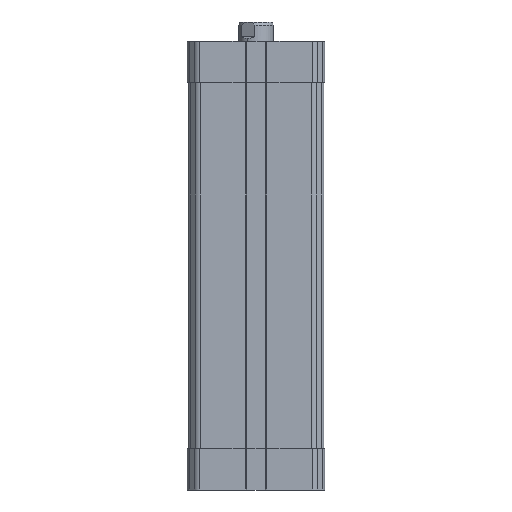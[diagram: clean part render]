
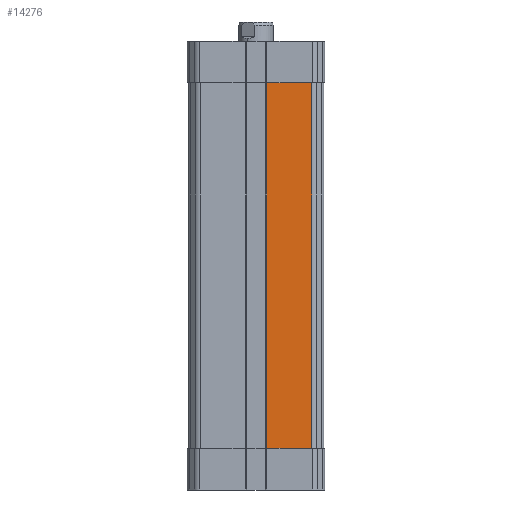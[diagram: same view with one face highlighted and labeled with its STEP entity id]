
A CAD part, front view. The second image highlights one B-rep face of the part: STEP entity #14276.
In plain terms, the highlighted planar face has unit normal (0, -1, 0).
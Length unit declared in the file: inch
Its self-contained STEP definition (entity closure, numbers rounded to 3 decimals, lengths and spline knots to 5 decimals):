
#11 = LINE ( 'NONE', #21614, #5166 ) ;
#841 = DIRECTION ( 'NONE',  ( 0., 0., -1. ) ) ;
#2750 = CARTESIAN_POINT ( 'NONE',  ( -0.76772, -0.76772, -3.0315 ) ) ;
#3472 = LINE ( 'NONE', #5408, #21790 ) ;
#4533 = FACE_OUTER_BOUND ( 'NONE', #9070, .T. ) ;
#4668 = CARTESIAN_POINT ( 'NONE',  ( -0.76772, -0.76772, -3.0315 ) ) ;
#5166 = VECTOR ( 'NONE', #12725, 39.37008 ) ;
#5408 = CARTESIAN_POINT ( 'NONE',  ( 0.63337, -0.76772, 1.10236 ) ) ;
#5555 = CARTESIAN_POINT ( 'NONE',  ( 0.12303, -0.76772, -3.0315 ) ) ;
#5935 = ORIENTED_EDGE ( 'NONE', *, *, #22739, .T. ) ;
#6483 = VECTOR ( 'NONE', #11607, 39.37008 ) ;
#6816 = LINE ( 'NONE', #21292, #26147 ) ;
#7279 = DIRECTION ( 'NONE',  ( 0., -1., 0. ) ) ;
#7367 = PLANE ( 'NONE',  #23129 ) ;
#8784 = CARTESIAN_POINT ( 'NONE',  ( 0.12303, -0.76772, 1.10236 ) ) ;
#9070 = EDGE_LOOP ( 'NONE', ( #5935, #23658, #28313, #10038 ) ) ;
#10038 = ORIENTED_EDGE ( 'NONE', *, *, #15321, .T. ) ;
#10658 = EDGE_CURVE ( 'NONE', #10800, #21166, #6816, .T. ) ;
#10800 = VERTEX_POINT ( 'NONE', #8784 ) ;
#11607 = DIRECTION ( 'NONE',  ( 1., 0., 0. ) ) ;
#12440 = DIRECTION ( 'NONE',  ( 0., 0., 1. ) ) ;
#12725 = DIRECTION ( 'NONE',  ( 0., 0., -1. ) ) ;
#13767 = CARTESIAN_POINT ( 'NONE',  ( 0.63337, -0.76772, -3.0315 ) ) ;
#14276 = ADVANCED_FACE ( 'NONE', ( #4533 ), #7367, .T. ) ;
#14387 = CARTESIAN_POINT ( 'NONE',  ( 0.63337, -0.76772, 1.10236 ) ) ;
#15321 = EDGE_CURVE ( 'NONE', #10800, #27455, #11, .T. ) ;
#16550 = DIRECTION ( 'NONE',  ( 1., 0., 0. ) ) ;
#21166 = VERTEX_POINT ( 'NONE', #14387 ) ;
#21292 = CARTESIAN_POINT ( 'NONE',  ( -0.76772, -0.76772, 1.10236 ) ) ;
#21614 = CARTESIAN_POINT ( 'NONE',  ( 0.12303, -0.76772, -3.0315 ) ) ;
#21790 = VECTOR ( 'NONE', #12440, 39.37008 ) ;
#22739 = EDGE_CURVE ( 'NONE', #27455, #27295, #24112, .T. ) ;
#23129 = AXIS2_PLACEMENT_3D ( 'NONE', #2750, #7279, #841 ) ;
#23658 = ORIENTED_EDGE ( 'NONE', *, *, #26922, .T. ) ;
#24112 = LINE ( 'NONE', #4668, #6483 ) ;
#26147 = VECTOR ( 'NONE', #16550, 39.37008 ) ;
#26922 = EDGE_CURVE ( 'NONE', #27295, #21166, #3472, .T. ) ;
#27295 = VERTEX_POINT ( 'NONE', #13767 ) ;
#27455 = VERTEX_POINT ( 'NONE', #5555 ) ;
#28313 = ORIENTED_EDGE ( 'NONE', *, *, #10658, .F. ) ;
